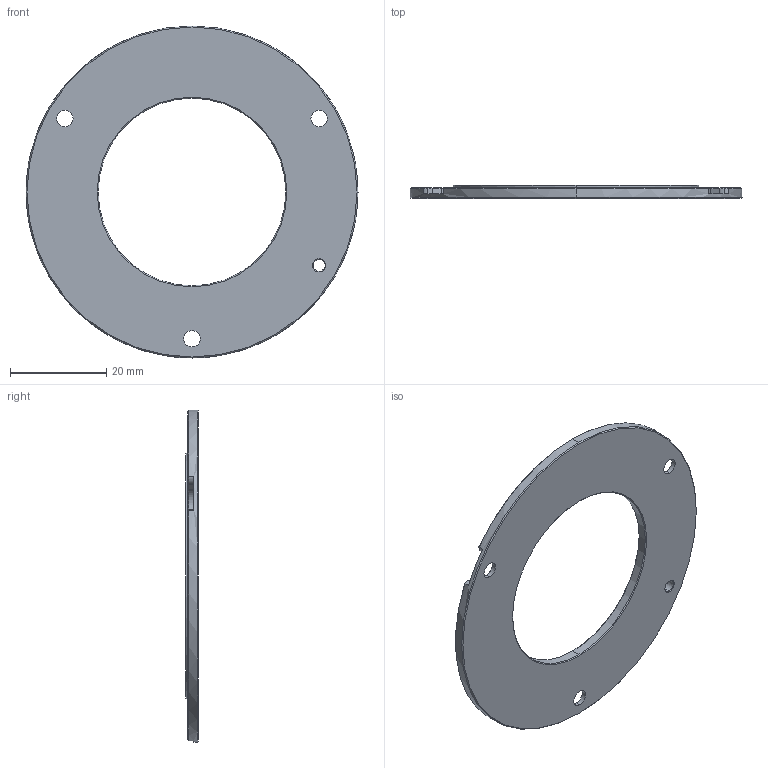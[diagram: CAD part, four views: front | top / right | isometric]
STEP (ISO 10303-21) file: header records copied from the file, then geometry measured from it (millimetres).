
FILE_DESCRIPTION (( 'STEP AP214' ), '1' );
FILE_NAME ('GRR-069-B11-ST.STEP', '2023-03-28T07:07:04', ( '' ), ( '' ), 'SwSTEP 2.0', 'SolidWorks 2021', '' );
FILE_SCHEMA (( 'AUTOMOTIVE_DESIGN' ));
Length unit declared in the file: millimetre
Products named in the file (1): GRR-069-B11-ST
Bounding box: 69 x 2.7 x 69 mm (x, y, z)
Volume: 5680.6 mm3; surface area: 7219.9 mm2
Topology: 2 solids, 2 shells, 76 faces, 181 edges, 111 vertices
Faces by surface type: cylinder 32, cone 23, plane 21
Entity records: 3115 total; most frequent: DIRECTION 422, CARTESIAN_POINT 387, ORIENTED_EDGE 362, EDGE_CURVE 181, AXIS2_PLACEMENT_3D 170, VERTEX_POINT 111, CIRCLE 93, EDGE_LOOP 90
